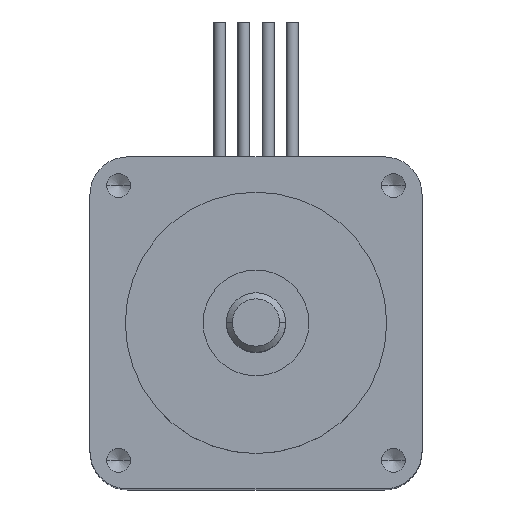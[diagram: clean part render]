
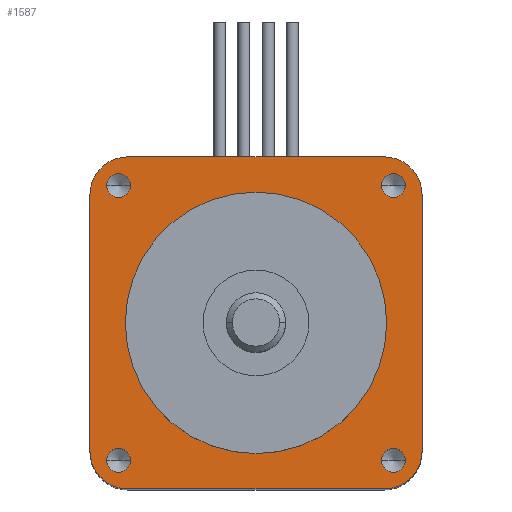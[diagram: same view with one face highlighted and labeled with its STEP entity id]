
A CAD part, top view. The second image highlights one B-rep face of the part: STEP entity #1587.
In plain terms, the highlighted planar face has unit normal (0, 0, 1).
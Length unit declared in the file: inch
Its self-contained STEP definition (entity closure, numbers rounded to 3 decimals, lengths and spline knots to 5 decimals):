
#185=CARTESIAN_POINT('',(-0.433,0.,1.99));
#186=VERTEX_POINT('',#185);
#195=CARTESIAN_POINT('',(0.433,0.,1.99));
#196=VERTEX_POINT('',#195);
#197=CARTESIAN_POINT('',(0.0,0.0,1.99));
#198=DIRECTION('',(0.0,0.0,-1.0));
#199=DIRECTION('',(-1.0,0.0,0.0));
#200=AXIS2_PLACEMENT_3D('',#197,#198,#199);
#201=CIRCLE('',#200,0.433);
#202=EDGE_CURVE('',#196,#186,#201,.T.);
#540=CARTESIAN_POINT('',(0.4945,0.455,1.99));
#541=VERTEX_POINT('',#540);
#557=CARTESIAN_POINT('',(0.4155,0.455,1.99));
#558=VERTEX_POINT('',#557);
#565=CARTESIAN_POINT('',(0.455,0.455,1.99));
#566=DIRECTION('',(0.0,0.0,-1.0));
#567=DIRECTION('',(1.0,0.0,0.0));
#568=AXIS2_PLACEMENT_3D('',#565,#566,#567);
#569=CIRCLE('',#568,0.0395);
#570=EDGE_CURVE('',#541,#558,#569,.T.);
#653=CARTESIAN_POINT('',(-0.4155,-0.455,1.99));
#654=VERTEX_POINT('',#653);
#670=CARTESIAN_POINT('',(-0.4945,-0.455,1.99));
#671=VERTEX_POINT('',#670);
#678=CARTESIAN_POINT('',(-0.455,-0.455,1.99));
#679=DIRECTION('',(0.0,0.0,-1.0));
#680=DIRECTION('',(1.0,0.0,0.0));
#681=AXIS2_PLACEMENT_3D('',#678,#679,#680);
#682=CIRCLE('',#681,0.0395);
#683=EDGE_CURVE('',#654,#671,#682,.T.);
#766=CARTESIAN_POINT('',(-0.4155,0.455,1.99));
#767=VERTEX_POINT('',#766);
#783=CARTESIAN_POINT('',(-0.4945,0.455,1.99));
#784=VERTEX_POINT('',#783);
#791=CARTESIAN_POINT('',(-0.455,0.455,1.99));
#792=DIRECTION('',(0.0,0.0,-1.0));
#793=DIRECTION('',(1.0,0.0,0.0));
#794=AXIS2_PLACEMENT_3D('',#791,#792,#793);
#795=CIRCLE('',#794,0.0395);
#796=EDGE_CURVE('',#767,#784,#795,.T.);
#879=CARTESIAN_POINT('',(0.4945,-0.455,1.99));
#880=VERTEX_POINT('',#879);
#896=CARTESIAN_POINT('',(0.4155,-0.455,1.99));
#897=VERTEX_POINT('',#896);
#904=CARTESIAN_POINT('',(0.455,-0.455,1.99));
#905=DIRECTION('',(0.0,0.0,-1.0));
#906=DIRECTION('',(1.0,0.0,0.0));
#907=AXIS2_PLACEMENT_3D('',#904,#905,#906);
#908=CIRCLE('',#907,0.0395);
#909=EDGE_CURVE('',#880,#897,#908,.T.);
#1023=CARTESIAN_POINT('',(0.455,-0.455,1.99));
#1024=DIRECTION('',(0.0,0.0,-1.0));
#1025=DIRECTION('',(1.0,0.0,0.0));
#1026=AXIS2_PLACEMENT_3D('',#1023,#1024,#1025);
#1027=CIRCLE('',#1026,0.0395);
#1028=EDGE_CURVE('',#897,#880,#1027,.T.);
#1094=CARTESIAN_POINT('',(-0.455,0.455,1.99));
#1095=DIRECTION('',(0.0,0.0,-1.0));
#1096=DIRECTION('',(1.0,0.0,0.0));
#1097=AXIS2_PLACEMENT_3D('',#1094,#1095,#1096);
#1098=CIRCLE('',#1097,0.0395);
#1099=EDGE_CURVE('',#784,#767,#1098,.T.);
#1165=CARTESIAN_POINT('',(-0.455,-0.455,1.99));
#1166=DIRECTION('',(0.0,0.0,-1.0));
#1167=DIRECTION('',(1.0,0.0,0.0));
#1168=AXIS2_PLACEMENT_3D('',#1165,#1166,#1167);
#1169=CIRCLE('',#1168,0.0395);
#1170=EDGE_CURVE('',#671,#654,#1169,.T.);
#1236=CARTESIAN_POINT('',(0.455,0.455,1.99));
#1237=DIRECTION('',(0.0,0.0,-1.0));
#1238=DIRECTION('',(1.0,0.0,0.0));
#1239=AXIS2_PLACEMENT_3D('',#1236,#1237,#1238);
#1240=CIRCLE('',#1239,0.0395);
#1241=EDGE_CURVE('',#558,#541,#1240,.T.);
#1468=CARTESIAN_POINT('',(0.0,0.0,1.99));
#1469=DIRECTION('',(0.0,0.0,-1.0));
#1470=DIRECTION('',(-1.0,0.0,0.0));
#1471=AXIS2_PLACEMENT_3D('',#1468,#1469,#1470);
#1472=CIRCLE('',#1471,0.433);
#1473=EDGE_CURVE('',#186,#196,#1472,.T.);
#1492=CARTESIAN_POINT('',(0.0,0.0,1.99));
#1493=DIRECTION('',(0.0,0.0,1.0));
#1494=DIRECTION('',(1.0,0.0,0.0));
#1495=AXIS2_PLACEMENT_3D('',#1492,#1493,#1494);
#1496=PLANE('',#1495);
#1497=CARTESIAN_POINT('',(-0.425,0.55,1.99));
#1498=VERTEX_POINT('',#1497);
#1499=CARTESIAN_POINT('',(-0.55,0.425,1.99));
#1500=VERTEX_POINT('',#1499);
#1501=CARTESIAN_POINT('',(-0.425,0.425,1.99));
#1502=DIRECTION('',(0.0,0.0,1.0));
#1503=DIRECTION('',(0.0,1.0,0.0));
#1504=AXIS2_PLACEMENT_3D('',#1501,#1502,#1503);
#1505=CIRCLE('',#1504,0.125);
#1506=EDGE_CURVE('',#1498,#1500,#1505,.T.);
#1507=ORIENTED_EDGE('',*,*,#1506,.T.);
#1508=CARTESIAN_POINT('',(-0.55,-0.425,1.99));
#1509=VERTEX_POINT('',#1508);
#1510=CARTESIAN_POINT('',(-0.55,0.425,1.99));
#1511=DIRECTION('',(0.0,-1.0,0.0));
#1512=VECTOR('',#1511,0.85);
#1513=LINE('',#1510,#1512);
#1514=EDGE_CURVE('',#1500,#1509,#1513,.T.);
#1515=ORIENTED_EDGE('',*,*,#1514,.T.);
#1516=CARTESIAN_POINT('',(-0.425,-0.55,1.99));
#1517=VERTEX_POINT('',#1516);
#1518=CARTESIAN_POINT('',(-0.425,-0.425,1.99));
#1519=DIRECTION('',(0.0,0.0,1.0));
#1520=DIRECTION('',(-1.0,0.0,0.0));
#1521=AXIS2_PLACEMENT_3D('',#1518,#1519,#1520);
#1522=CIRCLE('',#1521,0.125);
#1523=EDGE_CURVE('',#1509,#1517,#1522,.T.);
#1524=ORIENTED_EDGE('',*,*,#1523,.T.);
#1525=CARTESIAN_POINT('',(0.425,-0.55,1.99));
#1526=VERTEX_POINT('',#1525);
#1527=CARTESIAN_POINT('',(-0.425,-0.55,1.99));
#1528=DIRECTION('',(1.0,0.0,0.0));
#1529=VECTOR('',#1528,0.85);
#1530=LINE('',#1527,#1529);
#1531=EDGE_CURVE('',#1517,#1526,#1530,.T.);
#1532=ORIENTED_EDGE('',*,*,#1531,.T.);
#1533=CARTESIAN_POINT('',(0.55,-0.425,1.99));
#1534=VERTEX_POINT('',#1533);
#1535=CARTESIAN_POINT('',(0.425,-0.425,1.99));
#1536=DIRECTION('',(0.0,0.0,1.0));
#1537=DIRECTION('',(0.0,-1.0,0.0));
#1538=AXIS2_PLACEMENT_3D('',#1535,#1536,#1537);
#1539=CIRCLE('',#1538,0.125);
#1540=EDGE_CURVE('',#1526,#1534,#1539,.T.);
#1541=ORIENTED_EDGE('',*,*,#1540,.T.);
#1542=CARTESIAN_POINT('',(0.55,0.425,1.99));
#1543=VERTEX_POINT('',#1542);
#1544=CARTESIAN_POINT('',(0.55,-0.425,1.99));
#1545=DIRECTION('',(0.0,1.0,0.0));
#1546=VECTOR('',#1545,0.85);
#1547=LINE('',#1544,#1546);
#1548=EDGE_CURVE('',#1534,#1543,#1547,.T.);
#1549=ORIENTED_EDGE('',*,*,#1548,.T.);
#1550=CARTESIAN_POINT('',(0.425,0.55,1.99));
#1551=VERTEX_POINT('',#1550);
#1552=CARTESIAN_POINT('',(0.425,0.425,1.99));
#1553=DIRECTION('',(0.0,0.0,1.0));
#1554=DIRECTION('',(1.0,0.0,0.0));
#1555=AXIS2_PLACEMENT_3D('',#1552,#1553,#1554);
#1556=CIRCLE('',#1555,0.125);
#1557=EDGE_CURVE('',#1543,#1551,#1556,.T.);
#1558=ORIENTED_EDGE('',*,*,#1557,.T.);
#1559=CARTESIAN_POINT('',(0.425,0.55,1.99));
#1560=DIRECTION('',(-1.0,0.0,0.0));
#1561=VECTOR('',#1560,0.85);
#1562=LINE('',#1559,#1561);
#1563=EDGE_CURVE('',#1551,#1498,#1562,.T.);
#1564=ORIENTED_EDGE('',*,*,#1563,.T.);
#1565=EDGE_LOOP('',(#1507,#1515,#1524,#1532,#1541,#1549,#1558,#1564));
#1566=FACE_OUTER_BOUND('',#1565,.T.);
#1567=ORIENTED_EDGE('',*,*,#909,.T.);
#1568=ORIENTED_EDGE('',*,*,#1028,.T.);
#1569=EDGE_LOOP('',(#1567,#1568));
#1570=FACE_BOUND('',#1569,.T.);
#1571=ORIENTED_EDGE('',*,*,#796,.T.);
#1572=ORIENTED_EDGE('',*,*,#1099,.T.);
#1573=EDGE_LOOP('',(#1571,#1572));
#1574=FACE_BOUND('',#1573,.T.);
#1575=ORIENTED_EDGE('',*,*,#683,.T.);
#1576=ORIENTED_EDGE('',*,*,#1170,.T.);
#1577=EDGE_LOOP('',(#1575,#1576));
#1578=FACE_BOUND('',#1577,.T.);
#1579=ORIENTED_EDGE('',*,*,#570,.T.);
#1580=ORIENTED_EDGE('',*,*,#1241,.T.);
#1581=EDGE_LOOP('',(#1579,#1580));
#1582=FACE_BOUND('',#1581,.T.);
#1583=ORIENTED_EDGE('',*,*,#202,.T.);
#1584=ORIENTED_EDGE('',*,*,#1473,.T.);
#1585=EDGE_LOOP('',(#1583,#1584));
#1586=FACE_BOUND('',#1585,.T.);
#1587=ADVANCED_FACE('',(#1566,#1570,#1574,#1578,#1582,#1586),#1496,.T.);
